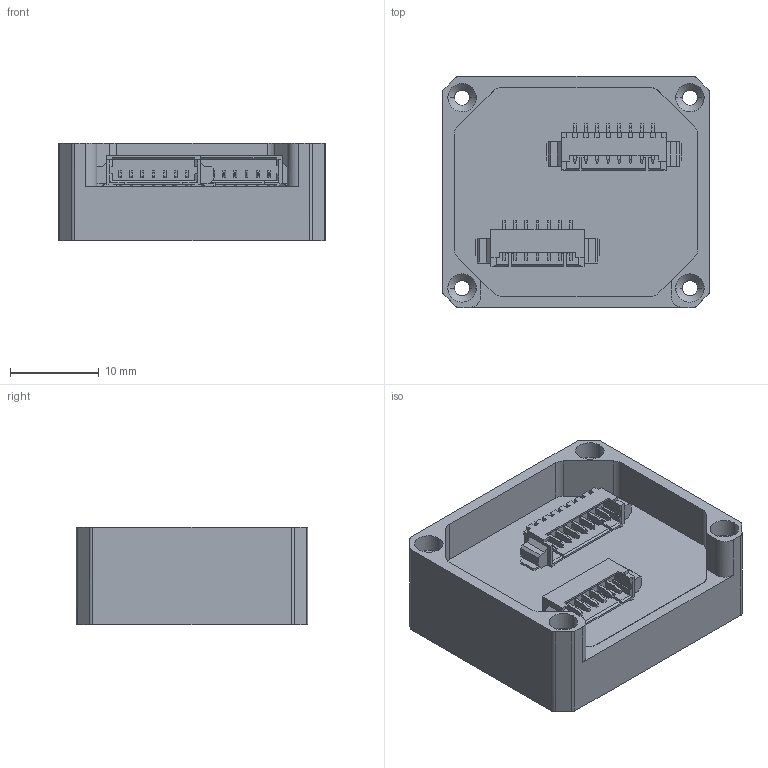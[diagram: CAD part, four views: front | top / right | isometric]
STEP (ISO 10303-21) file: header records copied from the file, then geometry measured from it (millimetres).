
FILE_DESCRIPTION(/* description */ (''),/* implementation_level */ '2;1');
FILE_NAME(/* name */ 'TRANSD~2',/* time_stamp */ '2025-11-21T00:26:48+08:00',/* author */ (''),/* organization */ (''),/* preprocessor_version */ 'ST-DEVELOPER v15',/* originating_system */ '',/* authorisation */ '');
FILE_SCHEMA (('AUTOMOTIVE_DESIGN'));
Length unit declared in the file: millimetre
Products named in the file (1): Document
Bounding box: 30 x 26 x 11 mm (x, y, z)
Volume: 5450.1 mm3; surface area: 3939.1 mm2
Topology: 2 solids, 2 shells, 663 faces, 1814 edges, 1178 vertices
Faces by surface type: plane 569, bspline 94
Entity records: 19443 total; most frequent: CARTESIAN_POINT 7335, ORIENTED_EDGE 3628, EDGE_CURVE 1814, B_SPLINE_CURVE_WITH_KNOTS 1654, VERTEX_POINT 1178, EDGE_LOOP 718, ADVANCED_FACE 663, FACE_OUTER_BOUND 663
